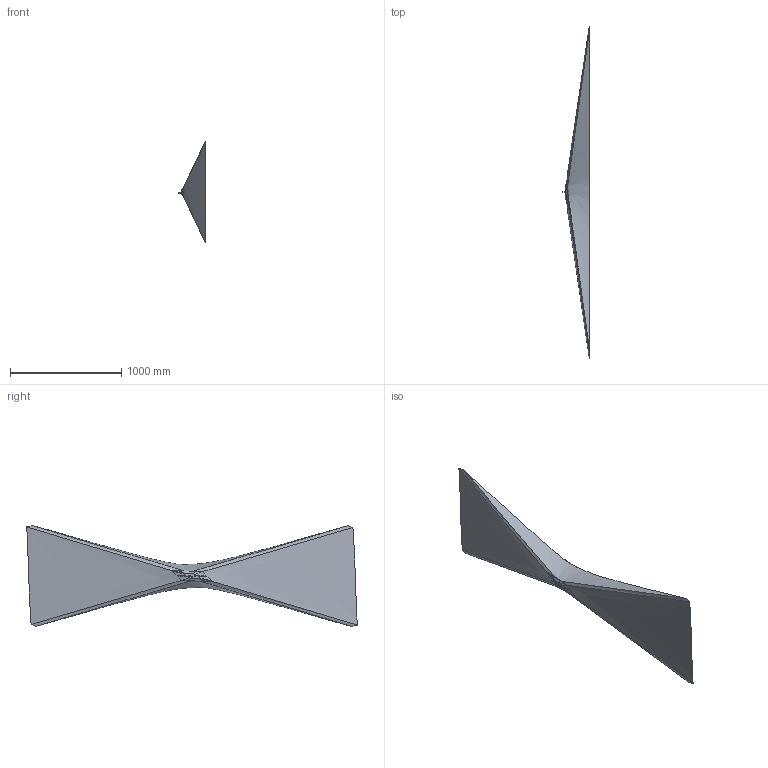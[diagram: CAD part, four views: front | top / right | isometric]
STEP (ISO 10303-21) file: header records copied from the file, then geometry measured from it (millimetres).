
FILE_DESCRIPTION(('CATIA V5 STEP Exchange','CAx-IF Rec.Pracs.--- Model Styling and Organization---1.5--- 2016-08-15','CAx-IF Rec.Pracs.---Supplemental Geometry---1.0---2011-11-01','CAx-IF Rec.Pracs.--- Composite Materials ---1.1---2010-07-15'),'2;1');
FILE_NAME('E:\tmp\ddx\2011206\HELLA_3D_data_LED_position_lamp_SHAPELINE_013-324_style.stp','2022-01-18T07:31:11+00:00',('none'),('none'),'CATIA Version 5-6 Release 2020 SP3 HF9','CATIA V5 STEP AP214 Edition 3 v2','none');
FILE_SCHEMA(('AUTOMOTIVE_DESIGN { 1 0 10303 214 3 1 1 1 }'));
Length unit declared in the file: millimetre
Products named in the file (1): 10002759054_D10_001
Bounding box: 237.1 x 2982.11 x 907.08 mm (x, y, z)
Volume: 58325.1 mm3; surface area: 2353952.2 mm2
Topology: 1 solids, 3 shells, 564 faces, 1340 edges, 772 vertices
Faces by surface type: bspline 354, cylinder 92, plane 60, cone 24, torus 22, sphere 8, extrusion 4
Entity records: 34177 total; most frequent: CARTESIAN_POINT 24629, ORIENTED_EDGE 2610, EDGE_CURVE 1324, B_SPLINE_CURVE_WITH_KNOTS 956, VERTEX_POINT 772, DIRECTION 720, EDGE_LOOP 576, ADVANCED_FACE 564
